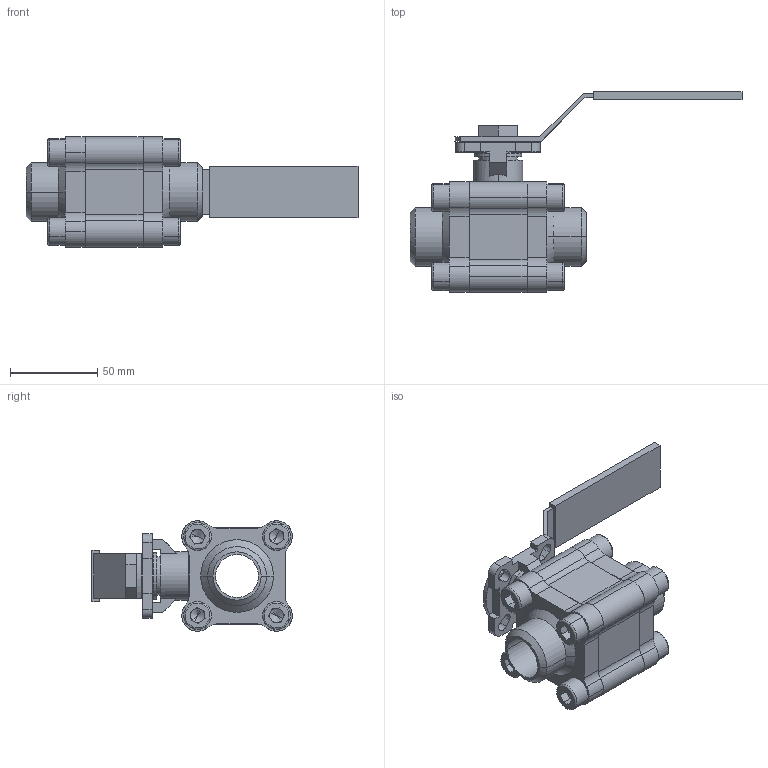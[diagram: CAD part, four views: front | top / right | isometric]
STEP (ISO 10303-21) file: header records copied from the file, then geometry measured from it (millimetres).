
FILE_DESCRIPTION (( 'STEP AP214' ), '1' );
FILE_NAME ('S33D DN25 BW HB.step', '2010-10-27T14:40:55', ( '' ), ( '' ), 'SwSTEP 2.0', 'SolidWorks 2010', '' );
FILE_SCHEMA (( 'AUTOMOTIVE_DESIGN' ));
Length unit declared in the file: millimetre
Products named in the file (5): S33D KK DN25 PN100; DIN 912 M10 x 25 --- 25N_DIN 912 M10 x 25 --- 25N; S33D Flens Buttweld DN25; Hendel S33D DN25; S33D DN25 BW HB
Assembly tree (12 placements, depth 2):
  S33D DN25 BW HB
    S33D KK DN25 PN100
    S33D Flens Buttweld DN25  x2
    DIN 912 M10 x 25 --- 25N_DIN 912 M10 x 25 --- 25N  x8
    Hendel S33D DN25
Bounding box: 190.25 x 114.88 x 63.25 mm (x, y, z)
Volume: 236678.7 mm3; surface area: 81620.4 mm2
Topology: 12 solids, 12 shells, 453 faces, 1108 edges, 684 vertices
Faces by surface type: plane 242, cylinder 139, cone 40, torus 32
Entity records: 7451 total; most frequent: DIRECTION 1288, CARTESIAN_POINT 1269, ORIENTED_EDGE 1204, EDGE_CURVE 602, AXIS2_PLACEMENT_3D 452, VERTEX_POINT 389, LINE 384, VECTOR 384
